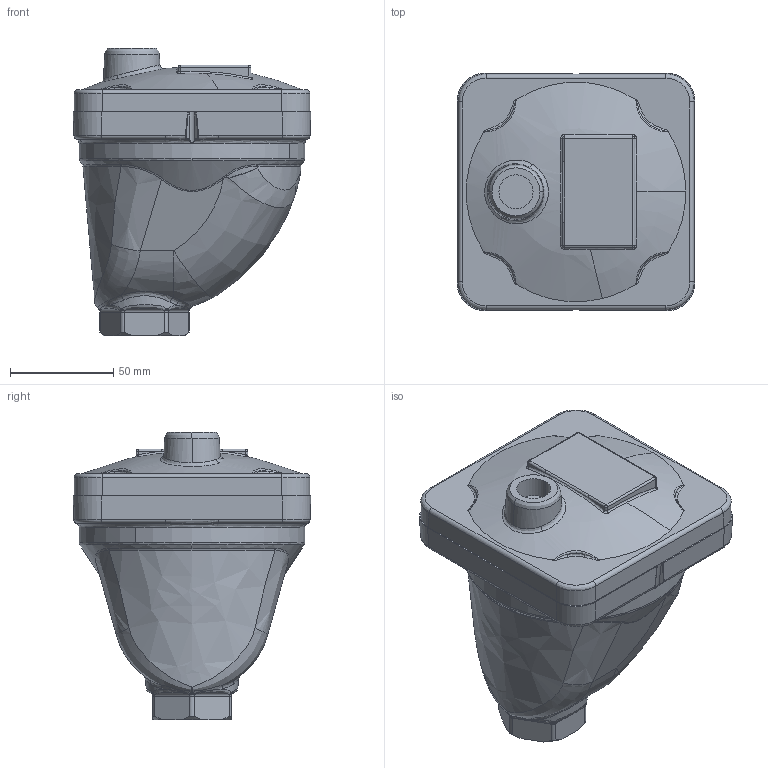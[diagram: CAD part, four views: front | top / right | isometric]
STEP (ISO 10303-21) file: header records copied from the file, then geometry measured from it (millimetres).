
FILE_DESCRIPTION( (''), '2;1');
FILE_NAME ('PC1027.3008.TA-3　20A_7231.stp','2025-07-29T09:06:17',(''),(''),'spGate 19.8.4 (****-****-****-****)','','');
FILE_SCHEMA (('AUTOMOTIVE_DESIGN'));
Length unit declared in the file: millimetre
Products named in the file (3): Assembly; TA-3　15Ａ; TA-3　20A　本体
Assembly tree (2 placements, depth 2):
  Assembly
    TA-3　15Ａ
    TA-3　20A　本体
Bounding box: 114.92 x 114.92 x 139 mm (x, y, z)
Volume: 431540 mm3; surface area: 100218.5 mm2
Topology: 2 solids, 2 shells, 288 faces, 701 edges, 413 vertices
Faces by surface type: bspline 162, cylinder 72, plane 44, sphere 10
Entity records: 31399 total; most frequent: CARTESIAN_POINT 20323, ORIENTED_EDGE 1380, COLOUR_RGB 980, PRESENTATION_STYLE_ASSIGNMENT 980, STYLED_ITEM 980, DIRECTION 891, EDGE_CURVE 690, DRAUGHTING_PRE_DEFINED_CURVE_FONT 690
